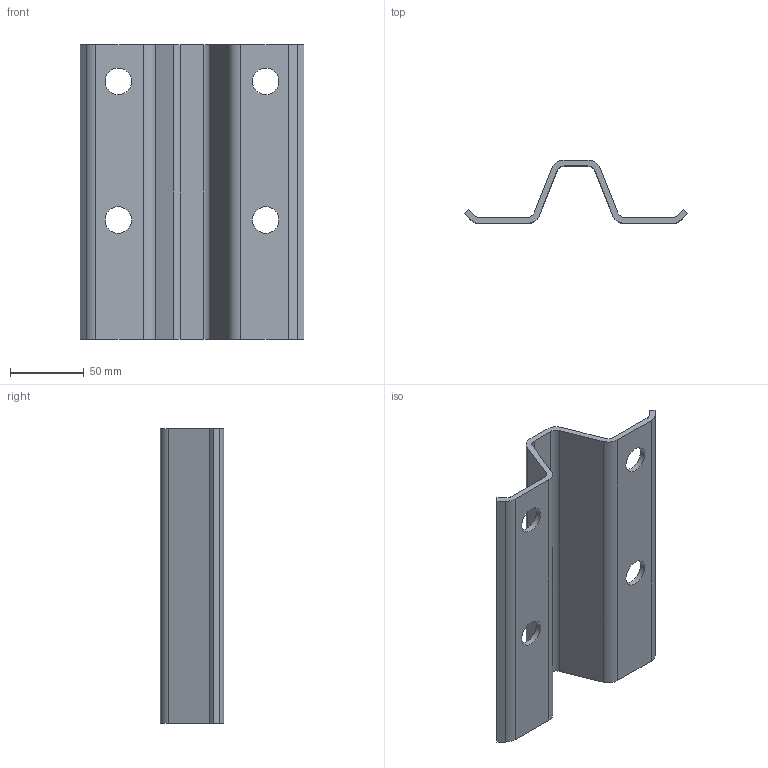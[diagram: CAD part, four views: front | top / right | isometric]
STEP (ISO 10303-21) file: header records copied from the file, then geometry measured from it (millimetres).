
FILE_DESCRIPTION(/* description */ (''),/* implementation_level */ '2;1');
FILE_NAME(/* name */ 'C245.stp',/* time_stamp */ '2023-07-03T11:07:34+02:00',/* author */ ('woriedl'),/* organization */ (''),/* preprocessor_version */ 'ST-DEVELOPER v19.2',/* originating_system */ 'AutoCAD Mechanical',/* authorisation */ '');
FILE_SCHEMA (('AUTOMOTIVE_DESIGN { 1 0 10303 214 3 1 1 }'));
Length unit declared in the file: centimetre
Products named in the file (1): Product
Bounding box: 151.72 x 43 x 200 mm (x, y, z)
Volume: 157387.9 mm3; surface area: 82813.3 mm2
Topology: 1 solids, 1 shells, 34 faces, 96 edges, 64 vertices
Faces by surface type: plane 18, cylinder 16
Full cylindrical faces by diameter (mm): 18 x4
Entity records: 1151 total; most frequent: DIRECTION 198, CARTESIAN_POINT 195, ORIENTED_EDGE 192, EDGE_CURVE 96, AXIS2_PLACEMENT_3D 67, LINE 64, VECTOR 64, VERTEX_POINT 64
